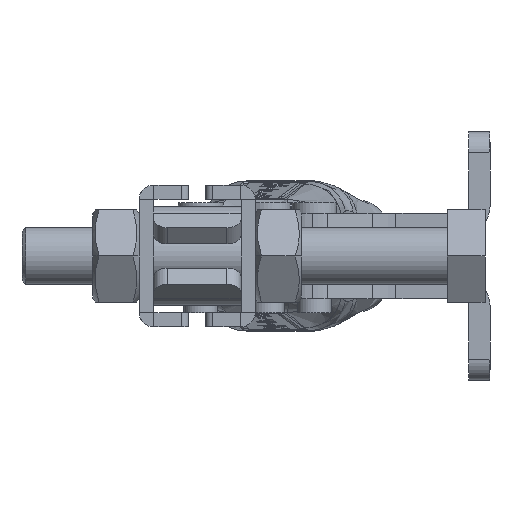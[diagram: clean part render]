
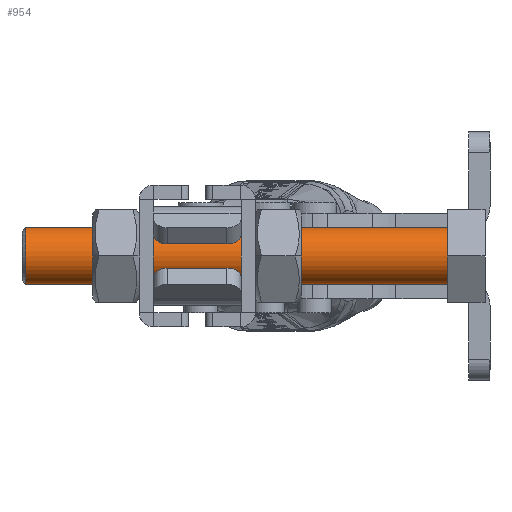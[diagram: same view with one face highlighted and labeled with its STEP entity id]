
A CAD part, left-side view. The second image highlights one B-rep face of the part: STEP entity #954.
In plain terms, the highlighted cylindrical face has radius 4 mm (diameter 8 mm), a partial arc.
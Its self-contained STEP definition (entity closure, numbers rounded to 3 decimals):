
#661 = CARTESIAN_POINT ( 'NONE',  ( 0., 0., 0. ) ) ;
#834 = ORIENTED_EDGE ( 'NONE', *, *, #8312, .T. ) ;
#954 = ADVANCED_FACE ( 'NONE', ( #18838 ), #32983, .T. ) ;
#1323 = ORIENTED_EDGE ( 'NONE', *, *, #28779, .F. ) ;
#2733 = CARTESIAN_POINT ( 'NONE',  ( 0., -59.5, -4. ) ) ;
#2827 = CARTESIAN_POINT ( 'NONE',  ( 0., -59.5, 4. ) ) ;
#3509 = DIRECTION ( 'NONE',  ( 0., 0., 1. ) ) ;
#7170 = DIRECTION ( 'NONE',  ( 0., 1., 0. ) ) ;
#7221 = CARTESIAN_POINT ( 'NONE',  ( 0., -60., 4. ) ) ;
#8312 = EDGE_CURVE ( 'NONE', #16576, #12657, #31775, .T. ) ;
#9128 = VECTOR ( 'NONE', #10072, 1000. ) ;
#9293 = EDGE_LOOP ( 'NONE', ( #1323, #31782, #834, #20339 ) ) ;
#10072 = DIRECTION ( 'NONE',  ( 0., 1., 0. ) ) ;
#12046 = CIRCLE ( 'NONE', #34851, 4. ) ;
#12657 = VERTEX_POINT ( 'NONE', #16380 ) ;
#13803 = DIRECTION ( 'NONE',  ( 0., 1., 0. ) ) ;
#15297 = LINE ( 'NONE', #21156, #29420 ) ;
#16380 = CARTESIAN_POINT ( 'NONE',  ( 0., 0., 4. ) ) ;
#16530 = AXIS2_PLACEMENT_3D ( 'NONE', #21352, #7170, #24058 ) ;
#16576 = VERTEX_POINT ( 'NONE', #2827 ) ;
#17885 = EDGE_CURVE ( 'NONE', #12657, #25339, #12046, .T. ) ;
#18838 = FACE_OUTER_BOUND ( 'NONE', #9293, .T. ) ;
#19175 = VERTEX_POINT ( 'NONE', #2733 ) ;
#20339 = ORIENTED_EDGE ( 'NONE', *, *, #17885, .T. ) ;
#20535 = DIRECTION ( 'NONE',  ( 0., -1., 0. ) ) ;
#21156 = CARTESIAN_POINT ( 'NONE',  ( 0., -60., -4. ) ) ;
#21352 = CARTESIAN_POINT ( 'NONE',  ( 0., -60., 0. ) ) ;
#24058 = DIRECTION ( 'NONE',  ( 0., 0., 1. ) ) ;
#24079 = AXIS2_PLACEMENT_3D ( 'NONE', #30749, #13803, #33618 ) ;
#25339 = VERTEX_POINT ( 'NONE', #27216 ) ;
#26811 = DIRECTION ( 'NONE',  ( 0., 1., 0. ) ) ;
#27216 = CARTESIAN_POINT ( 'NONE',  ( 0., 0., -4. ) ) ;
#28779 = EDGE_CURVE ( 'NONE', #19175, #25339, #15297, .T. ) ;
#29420 = VECTOR ( 'NONE', #26811, 1000. ) ;
#30749 = CARTESIAN_POINT ( 'NONE',  ( 0., -59.5, 0. ) ) ;
#31775 = LINE ( 'NONE', #7221, #9128 ) ;
#31782 = ORIENTED_EDGE ( 'NONE', *, *, #34196, .T. ) ;
#32983 = CYLINDRICAL_SURFACE ( 'NONE', #16530, 4. ) ;
#33219 = CIRCLE ( 'NONE', #24079, 4. ) ;
#33618 = DIRECTION ( 'NONE',  ( 0., 0., -1. ) ) ;
#34196 = EDGE_CURVE ( 'NONE', #19175, #16576, #33219, .T. ) ;
#34851 = AXIS2_PLACEMENT_3D ( 'NONE', #661, #20535, #3509 ) ;
